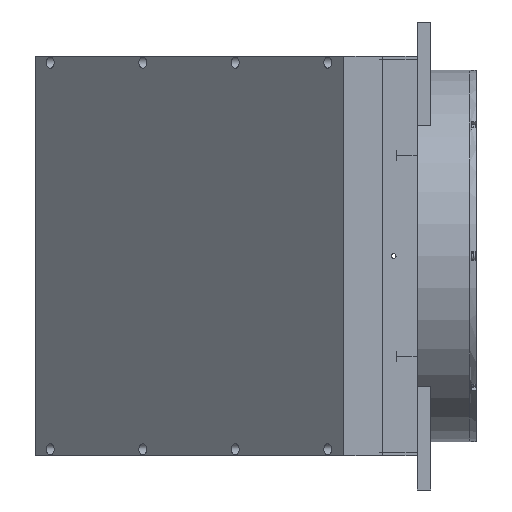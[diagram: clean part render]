
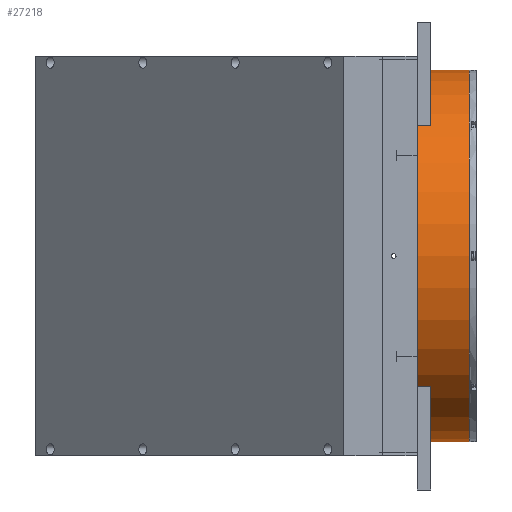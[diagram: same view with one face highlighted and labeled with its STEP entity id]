
A CAD part, left-side view. The second image highlights one B-rep face of the part: STEP entity #27218.
In plain terms, the highlighted cylindrical face has radius 135 mm (diameter 270 mm), a partial arc.
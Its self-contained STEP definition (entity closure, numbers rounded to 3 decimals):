
#558 = VERTEX_POINT ( 'NONE', #11171 ) ;
#1632 = EDGE_CURVE ( 'NONE', #30369, #2674, #31832, .T. ) ;
#2565 = CARTESIAN_POINT ( 'NONE',  ( -135., -163.35, 135. ) ) ;
#2674 = VERTEX_POINT ( 'NONE', #7865 ) ;
#2768 = ORIENTED_EDGE ( 'NONE', *, *, #28939, .F. ) ;
#6970 = ORIENTED_EDGE ( 'NONE', *, *, #24145, .T. ) ;
#7643 = EDGE_CURVE ( 'NONE', #30369, #558, #7975, .T. ) ;
#7865 = CARTESIAN_POINT ( 'NONE',  ( -135., 0., -135. ) ) ;
#7975 = LINE ( 'NONE', #2565, #13396 ) ;
#9578 = CARTESIAN_POINT ( 'NONE',  ( -135., -38., 0. ) ) ;
#10544 = AXIS2_PLACEMENT_3D ( 'NONE', #10679, #26552, #10562 ) ;
#10562 = DIRECTION ( 'NONE',  ( 0., 0., 1. ) ) ;
#10679 = CARTESIAN_POINT ( 'NONE',  ( -135., -163.35, 0. ) ) ;
#10806 = AXIS2_PLACEMENT_3D ( 'NONE', #9578, #28103, #12263 ) ;
#11171 = CARTESIAN_POINT ( 'NONE',  ( -135., -38., 135. ) ) ;
#12263 = DIRECTION ( 'NONE',  ( 0., 0., 1. ) ) ;
#13396 = VECTOR ( 'NONE', #23521, 1000. ) ;
#14482 = LINE ( 'NONE', #26982, #25262 ) ;
#16778 = FACE_OUTER_BOUND ( 'NONE', #29169, .T. ) ;
#17989 = CIRCLE ( 'NONE', #10806, 135. ) ;
#19033 = DIRECTION ( 'NONE',  ( 0., -1., 0. ) ) ;
#19222 = DIRECTION ( 'NONE',  ( 0., 0., 1. ) ) ;
#19339 = DIRECTION ( 'NONE',  ( 0., -1., 0. ) ) ;
#19455 = CARTESIAN_POINT ( 'NONE',  ( -135., 0., 0. ) ) ;
#21955 = ORIENTED_EDGE ( 'NONE', *, *, #1632, .T. ) ;
#22363 = ORIENTED_EDGE ( 'NONE', *, *, #7643, .F. ) ;
#23521 = DIRECTION ( 'NONE',  ( 0., -1., 0. ) ) ;
#23579 = AXIS2_PLACEMENT_3D ( 'NONE', #19455, #19339, #19222 ) ;
#24145 = EDGE_CURVE ( 'NONE', #2674, #34261, #14482, .T. ) ;
#25262 = VECTOR ( 'NONE', #19033, 1000. ) ;
#26552 = DIRECTION ( 'NONE',  ( 0., -1., 0. ) ) ;
#26982 = CARTESIAN_POINT ( 'NONE',  ( -135., -163.35, -135. ) ) ;
#27218 = ADVANCED_FACE ( 'NONE', ( #16778 ), #28324, .T. ) ;
#28103 = DIRECTION ( 'NONE',  ( 0., -1., 0. ) ) ;
#28324 = CYLINDRICAL_SURFACE ( 'NONE', #10544, 135. ) ;
#28939 = EDGE_CURVE ( 'NONE', #558, #34261, #17989, .T. ) ;
#29071 = CARTESIAN_POINT ( 'NONE',  ( -135., 0., 135. ) ) ;
#29169 = EDGE_LOOP ( 'NONE', ( #21955, #6970, #2768, #22363 ) ) ;
#29383 = CARTESIAN_POINT ( 'NONE',  ( -135., -38., -135. ) ) ;
#30369 = VERTEX_POINT ( 'NONE', #29071 ) ;
#31832 = CIRCLE ( 'NONE', #23579, 135. ) ;
#34261 = VERTEX_POINT ( 'NONE', #29383 ) ;
